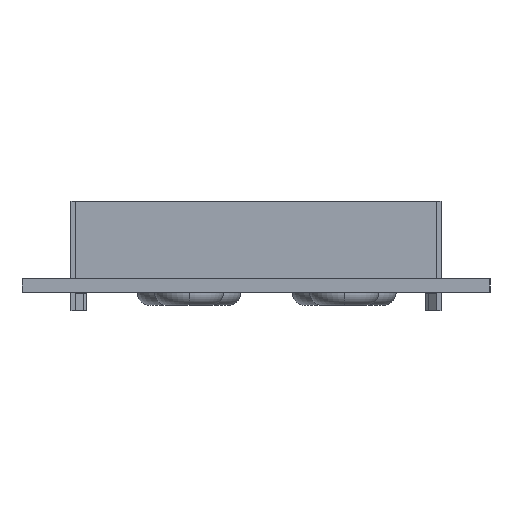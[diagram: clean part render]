
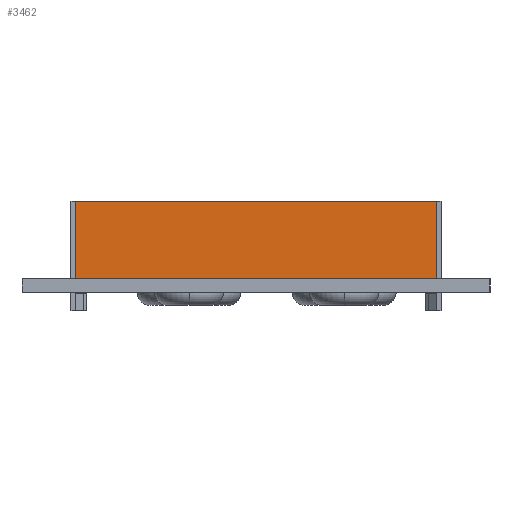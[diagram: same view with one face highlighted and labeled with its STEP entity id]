
A CAD part, left-side view. The second image highlights one B-rep face of the part: STEP entity #3462.
In plain terms, the highlighted planar face has unit normal (-1, 0, 0).
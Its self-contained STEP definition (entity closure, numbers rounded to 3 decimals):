
#19 = DIRECTION ( 'NONE',  ( 0., 0., -1. ) ) ;
#43 = EDGE_LOOP ( 'NONE', ( #13323, #2285, #12367, #2615 ) ) ;
#846 = DIRECTION ( 'NONE',  ( 0., 0., -1. ) ) ;
#1407 = VERTEX_POINT ( 'NONE', #4330 ) ;
#2285 = ORIENTED_EDGE ( 'NONE', *, *, #10554, .F. ) ;
#2615 = ORIENTED_EDGE ( 'NONE', *, *, #13244, .T. ) ;
#2692 = EDGE_CURVE ( 'NONE', #6631, #7224, #9739, .T. ) ;
#2935 = LINE ( 'NONE', #14413, #4940 ) ;
#3432 = VECTOR ( 'NONE', #4544, 1000. ) ;
#3462 = ADVANCED_FACE ( 'NONE', ( #11623 ), #10054, .F. ) ;
#3945 = CARTESIAN_POINT ( 'NONE',  ( -85., 20.85, 10.5 ) ) ;
#4330 = CARTESIAN_POINT ( 'NONE',  ( -85., 20.85, 1.6 ) ) ;
#4544 = DIRECTION ( 'NONE',  ( 0., -1., 0. ) ) ;
#4626 = CARTESIAN_POINT ( 'NONE',  ( -85., 20.85, 10.5 ) ) ;
#4940 = VECTOR ( 'NONE', #6298, 1000. ) ;
#4986 = VERTEX_POINT ( 'NONE', #12458 ) ;
#5942 = EDGE_CURVE ( 'NONE', #1407, #4986, #6497, .T. ) ;
#6298 = DIRECTION ( 'NONE',  ( 0., 0., -1. ) ) ;
#6497 = LINE ( 'NONE', #14882, #3432 ) ;
#6517 = VECTOR ( 'NONE', #12543, 1000. ) ;
#6631 = VERTEX_POINT ( 'NONE', #3945 ) ;
#7224 = VERTEX_POINT ( 'NONE', #10358 ) ;
#7464 = LINE ( 'NONE', #4626, #13276 ) ;
#7800 = DIRECTION ( 'NONE',  ( 1., 0., 0. ) ) ;
#8812 = AXIS2_PLACEMENT_3D ( 'NONE', #14736, #7800, #846 ) ;
#9040 = CARTESIAN_POINT ( 'NONE',  ( -85., 20.85, 10.5 ) ) ;
#9739 = LINE ( 'NONE', #9040, #6517 ) ;
#10054 = PLANE ( 'NONE',  #8812 ) ;
#10358 = CARTESIAN_POINT ( 'NONE',  ( -85., -20.85, 10.5 ) ) ;
#10554 = EDGE_CURVE ( 'NONE', #7224, #4986, #2935, .T. ) ;
#11623 = FACE_OUTER_BOUND ( 'NONE', #43, .T. ) ;
#12367 = ORIENTED_EDGE ( 'NONE', *, *, #2692, .F. ) ;
#12458 = CARTESIAN_POINT ( 'NONE',  ( -85., -20.85, 1.6 ) ) ;
#12543 = DIRECTION ( 'NONE',  ( 0., -1., 0. ) ) ;
#13244 = EDGE_CURVE ( 'NONE', #6631, #1407, #7464, .T. ) ;
#13276 = VECTOR ( 'NONE', #19, 1000. ) ;
#13323 = ORIENTED_EDGE ( 'NONE', *, *, #5942, .T. ) ;
#14413 = CARTESIAN_POINT ( 'NONE',  ( -85., -20.85, 10.5 ) ) ;
#14736 = CARTESIAN_POINT ( 'NONE',  ( -85., 20.85, 10.5 ) ) ;
#14882 = CARTESIAN_POINT ( 'NONE',  ( -85., 20.85, 1.6 ) ) ;
